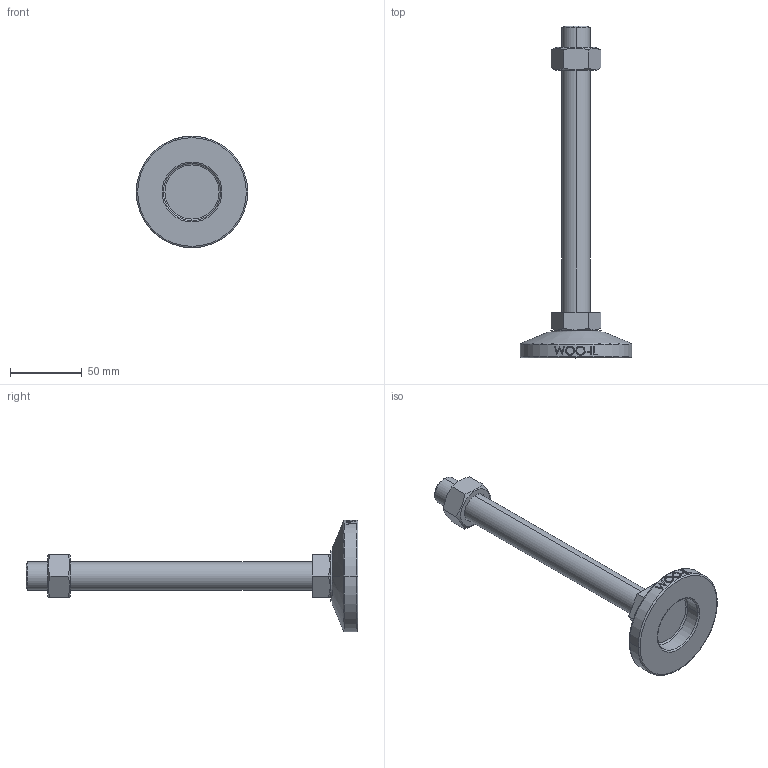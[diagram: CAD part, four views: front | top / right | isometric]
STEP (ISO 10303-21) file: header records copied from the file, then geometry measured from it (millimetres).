
FILE_DESCRIPTION (( 'STEP AP214' ), '1' );
FILE_NAME ('MFT78-M20-200.step', '2021-03-29T04:44:43', ( '' ), ( '' ), 'SwSTEP 2.0', 'SolidWorks 2019', '' );
FILE_SCHEMA (( 'AUTOMOTIVE_DESIGN' ));
Length unit declared in the file: millimetre
Products named in the file (2): MFT78-M20-200
Bounding box: 78 x 232 x 78 mm (x, y, z)
Volume: 136808.3 mm3; surface area: 32419.8 mm2
Topology: 3 solids, 3 shells, 106 faces, 247 edges, 158 vertices
Faces by surface type: plane 48, cylinder 18, bspline 16, cone 14, torus 10
Entity records: 4550 total; most frequent: CARTESIAN_POINT 2187, ORIENTED_EDGE 494, DIRECTION 439, EDGE_CURVE 247, AXIS2_PLACEMENT_3D 170, VERTEX_POINT 158, EDGE_LOOP 119, ADVANCED_FACE 106
